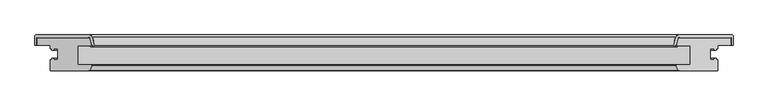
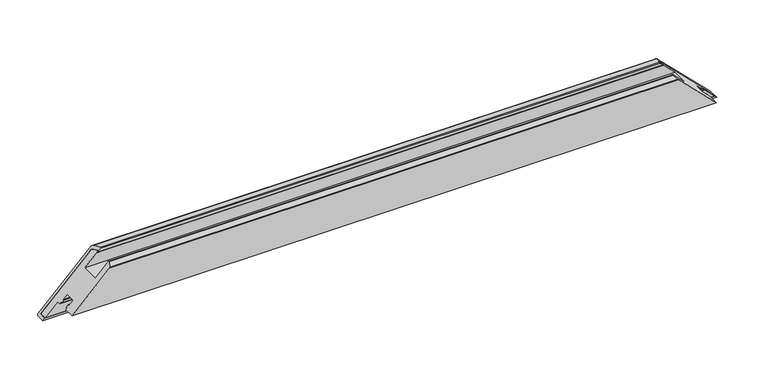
"""IFC4 building model written with IfcOpenShell, lengths in millimetres: proxy geometry, Weiku - Montante - Folha 02.2.01.018 : Weiku - Montante - Folha 02.2.01.018."""

from ifc_helpers import new_model, si_unit, frame, origin, place, context, project, spatial, polyline, ellipse_curve, source, transform, mapped, element, save
from ifc_brep_helpers import plane_surface, cylinder_surface, revolved_surface, advanced_brep


def generic_models_724dfdbe(model_context):
    return source(origin(), model_context, "Body", "AdvancedBrep", [
        advanced_brep(
        [(520.5, 50.0, 0.0), (443.4997332, 50.0, 77.0002668), (-443.4997332, 50.0, 77.0002668), (-520.5, 50.0, 0.0), (440.6019557, 47.7764571, 79.8980443), (-440.6019557, 47.7764571, 79.8980443), (438.0170371, 38.1294095, 82.4829629), (-438.0170371, 38.1294095, 82.4829629), (438.5, 37.5, 82.0), (-438.5, 37.5, 82.0), (439.3560102, 37.5, 81.1439898), (-439.3560102, 37.5, 81.1439898), (439.3560102, 36.5, 81.1439898), (-439.3560102, 36.5, 81.1439898), (434.7425588, 36.5, 85.7574412), (-434.7425588, 36.5, 85.7574412), (433.7766329, 37.758819, 86.7233671), (-433.7766329, 37.758819, 86.7233671), (437.1354501, 50.2940952, 83.3645499), (-437.1354501, 50.2940952, 83.3645499), (441.9650792, 54.0, 78.5349208), (-441.9650792, 54.0, 78.5349208), (521.5, 54.0, -1.0), (-521.5, 54.0, -1.0), (523.5, 52.0, -3.0), (-523.5, 52.0, -3.0), (523.5, 38.5, -3.0), (-523.5, 38.5, -3.0), (520.5, 38.5, 0.0), (-520.5, 38.5, 0.0)],
        [
            (0, 1),
            (1, 2),
            (2, 3),
            (3, 0),
            (1, 4, ellipse_curve(frame((443.4997332, 47.0, 77.0002668), z_axis=(0.7071067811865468, 0.0, 0.7071067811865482), x_axis=(0.7071067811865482, 0.0, -0.7071067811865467)), 4.2426407, 3.0)),
            (4, 5),
            (5, 2, ellipse_curve(frame((-443.4997332, 47.0, 77.0002668), z_axis=(-0.7071067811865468, 0.0, 0.7071067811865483), x_axis=(0.7071067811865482, 0.0, 0.7071067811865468)), 4.2426407, 3.0)),
            (4, 6),
            (6, 7),
            (7, 5),
            (6, 8, ellipse_curve(frame((438.5, 38.0, 82.0), z_axis=(0.7071067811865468, 0.0, 0.7071067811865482), x_axis=(0.7071067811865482, 0.0, -0.7071067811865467)), 0.7071068, 0.5)),
            (8, 9),
            (9, 7, ellipse_curve(frame((-438.5, 38.0, 82.0), z_axis=(-0.7071067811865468, 0.0, 0.7071067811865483), x_axis=(0.7071067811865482, 0.0, 0.7071067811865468)), 0.7071068, 0.5)),
            (8, 10),
            (10, 11),
            (11, 9),
            (10, 12, ellipse_curve(frame((439.3560102, 37.0, 81.1439898), z_axis=(-0.7071067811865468, 0.0, -0.7071067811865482), x_axis=(-0.7071067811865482, 0.0, 0.7071067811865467)), 0.7071068, 0.5)),
            (12, 13),
            (13, 11, ellipse_curve(frame((-439.3560102, 37.0, 81.1439898), z_axis=(0.7071067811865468, 0.0, -0.7071067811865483), x_axis=(-0.7071067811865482, 0.0, -0.7071067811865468)), 0.7071068, 0.5)),
            (12, 14),
            (14, 15),
            (15, 13),
            (14, 16, ellipse_curve(frame((434.7425588, 37.5, 85.7574412), z_axis=(-0.7071067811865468, 0.0, -0.7071067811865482), x_axis=(-0.7071067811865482, 0.0, 0.7071067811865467)), 1.4142136, 1.0)),
            (16, 17),
            (17, 15, ellipse_curve(frame((-434.7425588, 37.5, 85.7574412), z_axis=(0.7071067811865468, 0.0, -0.7071067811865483), x_axis=(-0.7071067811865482, 0.0, -0.7071067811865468)), 1.4142136, 1.0)),
            (16, 18),
            (18, 19),
            (19, 17),
            (18, 20, ellipse_curve(frame((441.9650792, 49.0, 78.5349208), z_axis=(-0.7071067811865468, 0.0, -0.7071067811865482), x_axis=(-0.7071067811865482, 0.0, 0.7071067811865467)), 7.0710678, 5.0)),
            (20, 21),
            (21, 19, ellipse_curve(frame((-441.9650792, 49.0, 78.5349208), z_axis=(0.7071067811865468, 0.0, -0.7071067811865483), x_axis=(-0.7071067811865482, 0.0, -0.7071067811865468)), 7.0710678, 5.0)),
            (20, 22),
            (22, 23),
            (23, 21),
            (22, 24, ellipse_curve(frame((521.5, 52.0, -1.0), z_axis=(-0.7071067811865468, 0.0, -0.7071067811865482), x_axis=(-0.7071067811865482, 0.0, 0.7071067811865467)), 2.8284271, 2.0)),
            (24, 25),
            (25, 23, ellipse_curve(frame((-521.5, 52.0, -1.0), z_axis=(0.7071067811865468, 0.0, -0.7071067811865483), x_axis=(-0.7071067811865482, 0.0, -0.7071067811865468)), 2.8284271, 2.0)),
            (24, 26),
            (26, 27),
            (27, 25),
            (26, 28),
            (28, 29),
            (29, 27),
            (28, 0),
            (3, 29),
        ],
        [
            plane_surface(frame((-540.5, 50.0, 0.0), z_axis=(0.0, -1.0, 0.0), x_axis=(1.0, 0.0, 0.0))),
            revolved_surface(polyline([(446.49973320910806, 50.0, 77.0002668), (-446.49973320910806, 50.0, 77.0002668)]), (-540.5, 47.0, 77.0002668), (1.0, 0.0, 0.0)),
            plane_surface(frame((-540.5, 47.7764571, 79.8980443), z_axis=(0.0, -0.2588190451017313, -0.9659258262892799), x_axis=(1.0, 0.0, 0.0))),
            revolved_surface(polyline([(439.00000001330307, 38.5, 82.0), (-439.0000000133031, 38.5, 82.0)]), (-540.5, 38.0, 82.0), (1.0, 0.0, 0.0)),
            plane_surface(frame((-540.5, 37.5, 82.0), z_axis=(0.0, 1.0, 0.0), x_axis=(1.0, 0.0, 0.0))),
            cylinder_surface(frame((-540.5, 37.0, 81.1439898), z_axis=(-1.0, 0.0, 0.0), x_axis=(0.0, 1.0, 0.0)), 0.5),
            plane_surface(frame((-540.5, 36.5, 81.1439898), z_axis=(0.0, -1.0, 0.0), x_axis=(1.0, 0.0, 0.0))),
            cylinder_surface(frame((-540.5, 37.5, 85.7574412), z_axis=(-1.0, 0.0, 0.0), x_axis=(0.0, 1.0, 0.0)), 1.0),
            plane_surface(frame((-540.5, 37.758819, 86.7233671), z_axis=(0.0, 0.25881904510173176, 0.9659258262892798), x_axis=(1.0, 0.0, 0.0))),
            cylinder_surface(frame((-540.5, 49.0, 78.5349208), z_axis=(-1.0, 0.0, 0.0), x_axis=(0.0, 1.0, 0.0)), 5.0),
            plane_surface(frame((-540.5, 54.0, 78.5349208), z_axis=(0.0, 1.0, 0.0), x_axis=(1.0, 0.0, 0.0))),
            cylinder_surface(frame((-540.5, 52.0, -1.0), z_axis=(-1.0, 0.0, 0.0), x_axis=(0.0, 1.0, 0.0)), 2.0),
            plane_surface(frame((-540.5, 52.0, -3.0), z_axis=(0.0, 0.0, -1.0), x_axis=(1.0, 0.0, 0.0))),
            plane_surface(frame((-540.5, 38.5, -3.0), z_axis=(0.0, -1.0, 0.0), x_axis=(1.0, 0.0, 0.0))),
            plane_surface(frame((-540.5, 38.5, 0.0), z_axis=(0.0, 0.0, 1.0), x_axis=(1.0, 0.0, 0.0))),
            plane_surface(frame((430.5, 0.0, 90.0), z_axis=(0.7071067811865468, 0.0, 0.7071067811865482), x_axis=(0.0, 1.0, 0.0))),
            plane_surface(frame((-548.7842712, 0.0, -28.2842712), z_axis=(-0.7071067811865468, 0.0, 0.7071067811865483), x_axis=(0.0, 1.0, 0.0))),
        ],
        [
            (0, [[1, 2, 3, 4]]),
            (1, [[5, 6, 7, -2]]),
            (2, [[8, 9, 10, -6]]),
            (3, [[11, 12, 13, -9]]),
            (4, [[14, 15, 16, -12]]),
            (5, [[17, 18, 19, -15]]),
            (6, [[20, 21, 22, -18]]),
            (7, [[23, 24, 25, -21]]),
            (8, [[26, 27, 28, -24]]),
            (9, [[29, 30, 31, -27]]),
            (10, [[32, 33, 34, -30]]),
            (11, [[35, 36, 37, -33]]),
            (12, [[38, 39, 40, -36]]),
            (13, [[41, 42, 43, -39]]),
            (14, [[44, -4, 45, -42]]),
            (15, [[-1, -44, -41, -38, -35, -32, -29, -26, -23, -20, -17, -14, -11, -8, -5]]),
            (16, [[-3, -7, -10, -13, -16, -19, -22, -25, -28, -31, -34, -37, -40, -43, -45]]),
        ],
    ),
        advanced_brep(
        [(520.5, 50.0, 0.0), (-520.5, 50.0, 0.0), (-443.4997332, 50.0, 77.0002668), (443.4997332, 50.0, 77.0002668), (520.5, 38.5, 0.0), (-520.5, 38.5, 0.0), (-442.4872264, 0.0, 78.0127736), (-500.5, 0.0, 20.0), (500.5, 0.0, 20.0), (442.4872264, 0.0, 78.0127736), (-500.5, 38.5, 20.0), (-500.5, 33.1, 20.0), (-498.3, 33.1, 22.2), (-498.3, 31.1, 22.2), (-495.5, 31.1, 25.0), (-495.5, 33.1, 25.0), (-489.0, 33.1, 31.5), (-489.0, 16.9, 31.5), (-495.5, 16.9, 25.0), (-495.5, 18.9, 25.0), (-498.3, 18.9, 22.2), (-498.3, 16.9, 22.2), (-500.5, 16.9, 20.0), (-441.5932657, 0.5518546, 78.9067343), (-438.0512796, 7.617411, 82.4487204), (-439.2134285, 9.5, 81.2865715), (-459.0, 9.5, 61.5), (-459.0, 37.5, 61.5), (-438.5, 37.5, 82.0), (-438.0170371, 38.1294095, 82.4829629), (-440.6019557, 47.7764571, 79.8980443), (440.6019557, 47.7764571, 79.8980443), (438.0170371, 38.1294095, 82.4829629), (438.5, 37.5, 82.0), (459.0, 37.5, 61.5), (459.0, 9.5, 61.5), (439.2134285, 9.5, 81.2865715), (438.0512796, 7.617411, 82.4487204), (441.5932657, 0.5518546, 78.9067343), (500.5, 16.9, 20.0), (498.3, 16.9, 22.2), (498.3, 18.9, 22.2), (495.5, 18.9, 25.0), (495.5, 16.9, 25.0), (489.0, 16.9, 31.5), (489.0, 33.1, 31.5), (495.5, 33.1, 25.0), (495.5, 31.1, 25.0), (498.3, 31.1, 22.2), (498.3, 33.1, 22.2), (500.5, 33.1, 20.0), (500.5, 38.5, 20.0)],
        [
            (0, 1),
            (1, 2),
            (2, 3),
            (3, 0),
            (0, 4),
            (4, 5),
            (5, 1),
            (6, 7),
            (7, 8),
            (8, 9),
            (9, 6),
            (5, 10),
            (10, 11),
            (11, 12),
            (12, 13),
            (13, 14),
            (14, 15),
            (15, 16),
            (16, 17),
            (17, 18),
            (18, 19),
            (19, 20),
            (20, 21),
            (21, 22),
            (22, 7),
            (6, 23, ellipse_curve(frame((-442.4872264, 1.0, 78.0127736), z_axis=(-0.7071067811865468, 0.0, 0.7071067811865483), x_axis=(-0.7071067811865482, 0.0, -0.7071067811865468)), 1.4142136, 1.0)),
            (23, 24),
            (24, 25, ellipse_curve(frame((-439.2134285, 8.2, 81.2865715), z_axis=(-0.7071067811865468, 0.0, 0.7071067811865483), x_axis=(-0.7071067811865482, 0.0, -0.7071067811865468)), 1.8384776, 1.3)),
            (25, 26),
            (26, 27),
            (27, 28),
            (28, 29, ellipse_curve(frame((-438.5, 38.0, 82.0), z_axis=(-0.7071067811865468, 0.0, 0.7071067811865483), x_axis=(-0.7071067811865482, 0.0, -0.7071067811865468)), 0.7071068, 0.5)),
            (29, 30),
            (30, 2, ellipse_curve(frame((-443.4997332, 47.0, 77.0002668), z_axis=(-0.7071067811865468, 0.0, 0.7071067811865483), x_axis=(-0.7071067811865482, 0.0, -0.7071067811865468)), 4.2426407, 3.0)),
            (3, 31, ellipse_curve(frame((443.4997332, 47.0, 77.0002668), z_axis=(0.7071067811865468, 0.0, 0.7071067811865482), x_axis=(-0.7071067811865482, 0.0, 0.7071067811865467)), 4.2426407, 3.0)),
            (31, 32),
            (32, 33, ellipse_curve(frame((438.5, 38.0, 82.0), z_axis=(0.7071067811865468, 0.0, 0.7071067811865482), x_axis=(-0.7071067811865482, 0.0, 0.7071067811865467)), 0.7071068, 0.5)),
            (33, 34),
            (34, 35),
            (35, 36),
            (36, 37, ellipse_curve(frame((439.2134285, 8.2, 81.2865715), z_axis=(0.7071067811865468, 0.0, 0.7071067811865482), x_axis=(-0.7071067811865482, 0.0, 0.7071067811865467)), 1.8384776, 1.3)),
            (37, 38),
            (38, 9, ellipse_curve(frame((442.4872264, 1.0, 78.0127736), z_axis=(0.7071067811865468, 0.0, 0.7071067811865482), x_axis=(-0.7071067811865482, 0.0, 0.7071067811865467)), 1.4142136, 1.0)),
            (8, 39),
            (39, 40),
            (40, 41),
            (41, 42),
            (42, 43),
            (43, 44),
            (44, 45),
            (45, 46),
            (46, 47),
            (47, 48),
            (48, 49),
            (49, 50),
            (50, 51),
            (51, 4),
            (38, 23),
            (37, 24),
            (36, 25),
            (35, 26),
            (34, 27),
            (33, 28),
            (32, 29),
            (31, 30),
            (51, 10),
            (50, 11),
            (49, 12),
            (48, 13),
            (47, 14),
            (46, 15),
            (45, 16),
            (44, 17),
            (43, 18),
            (42, 19),
            (41, 20),
            (40, 21),
            (39, 22),
        ],
        [
            plane_surface(frame((-520.5, 50.0, 77.0002668), z_axis=(0.0, 1.0, 0.0), x_axis=(1.0, 0.0, 0.0))),
            plane_surface(frame((-520.5, 50.0, 0.0), z_axis=(0.0, 0.0, -1.0), x_axis=(1.0, 0.0, 0.0))),
            plane_surface(frame((-520.5, 0.0, 20.0), z_axis=(0.0, -1.0, 0.0), x_axis=(1.0, 0.0, 0.0))),
            plane_surface(frame((-548.7842712, 0.0, -28.2842712), z_axis=(-0.7071067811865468, 0.0, 0.7071067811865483), x_axis=(0.0, 1.0, 0.0))),
            plane_surface(frame((430.5, 0.0, 90.0), z_axis=(0.7071067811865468, 0.0, 0.7071067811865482), x_axis=(0.0, 1.0, 0.0))),
            cylinder_surface(frame((-520.5, 1.0, 78.0127736), z_axis=(-1.0, 0.0, 0.0), x_axis=(0.0, 1.0, 0.0)), 1.0),
            plane_surface(frame((-520.5, 0.5518546, 78.9067343), z_axis=(0.0, -0.4481453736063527, 0.8939606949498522), x_axis=(1.0, 0.0, 0.0))),
            cylinder_surface(frame((-520.5, 8.2, 81.2865715), z_axis=(-1.0, 0.0, 0.0), x_axis=(0.0, 1.0, 0.0)), 1.3),
            plane_surface(frame((-520.5, 9.5, 81.2865715), z_axis=(0.0, 1.0, 0.0), x_axis=(1.0, 0.0, 0.0))),
            plane_surface(frame((-520.5, 9.5, 61.5), z_axis=(0.0, 0.0, 1.0), x_axis=(1.0, 0.0, 0.0))),
            plane_surface(frame((-520.5, 37.5, 61.5), z_axis=(0.0, -1.0, 0.0), x_axis=(1.0, 0.0, 0.0))),
            cylinder_surface(frame((-520.5, 38.0, 82.0), z_axis=(-1.0, 0.0, 0.0), x_axis=(0.0, 1.0, 0.0)), 0.5),
            plane_surface(frame((-520.5, 38.1294095, 82.4829629), z_axis=(0.0, 0.2588190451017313, 0.9659258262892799), x_axis=(1.0, 0.0, 0.0))),
            cylinder_surface(frame((-520.5, 47.0, 77.0002668), z_axis=(-1.0, 0.0, 0.0), x_axis=(0.0, 1.0, 0.0)), 3.0),
            plane_surface(frame((-520.5, 38.5, 0.0), z_axis=(0.0, -1.0, 0.0), x_axis=(1.0, 0.0, 0.0))),
            plane_surface(frame((-520.5, 38.5, 20.0), z_axis=(0.0, 0.0, -1.0), x_axis=(1.0, 0.0, 0.0))),
            plane_surface(frame((-520.5, 33.1, 20.0), z_axis=(0.0, -1.0, 0.0), x_axis=(1.0, 0.0, 0.0))),
            plane_surface(frame((-520.5, 33.1, 22.2), z_axis=(0.0, 0.0, -1.0), x_axis=(1.0, 0.0, 0.0))),
            plane_surface(frame((-520.5, 31.1, 22.2), z_axis=(0.0, -1.0, 0.0), x_axis=(1.0, 0.0, 0.0))),
            plane_surface(frame((-520.5, 31.1, 25.0), z_axis=(0.0, 0.0, 1.0), x_axis=(1.0, 0.0, 0.0))),
            plane_surface(frame((-520.5, 33.1, 25.0), z_axis=(0.0, -1.0, 0.0), x_axis=(1.0, 0.0, 0.0))),
            plane_surface(frame((-520.5, 33.1, 31.5), z_axis=(0.0, 0.0, -1.0), x_axis=(1.0, 0.0, 0.0))),
            plane_surface(frame((-520.5, 16.9, 31.5), z_axis=(0.0, 1.0, 0.0), x_axis=(1.0, 0.0, 0.0))),
            plane_surface(frame((-520.5, 16.9, 25.0), z_axis=(0.0, 0.0, 1.0), x_axis=(1.0, 0.0, 0.0))),
            plane_surface(frame((-520.5, 18.9, 25.0), z_axis=(0.0, 1.0, 0.0), x_axis=(1.0, 0.0, 0.0))),
            plane_surface(frame((-520.5, 18.9, 22.2), z_axis=(0.0, 0.0, -1.0), x_axis=(1.0, 0.0, 0.0))),
            plane_surface(frame((-520.5, 16.9, 22.2), z_axis=(0.0, 1.0, 0.0), x_axis=(1.0, 0.0, 0.0))),
            plane_surface(frame((-520.5, 16.9, 20.0), z_axis=(0.0, 0.0, -1.0), x_axis=(1.0, 0.0, 0.0))),
        ],
        [
            (0, [[1, 2, 3, 4]]),
            (1, [[-1, 5, 6, 7]]),
            (2, [[8, 9, 10, 11]]),
            (3, [[-2, -7, 12, 13, 14, 15, 16, 17, 18, 19, 20, 21, 22, 23, 24, 25, -8, 26, 27, 28, 29, 30, 31, 32, 33, 34]]),
            (4, [[-4, 35, 36, 37, 38, 39, 40, 41, 42, 43, -10, 44, 45, 46, 47, 48, 49, 50, 51, 52, 53, 54, 55, 56, 57, -5]]),
            (5, [[-26, -11, -43, 58]]),
            (6, [[-27, -58, -42, 59]]),
            (7, [[-28, -59, -41, 60]]),
            (8, [[-29, -60, -40, 61]]),
            (9, [[-30, -61, -39, 62]]),
            (10, [[-31, -62, -38, 63]]),
            (11, [[-32, -63, -37, 64]]),
            (12, [[-33, -64, -36, 65]]),
            (13, [[-34, -65, -35, -3]]),
            (14, [[-6, -57, 66, -12]]),
            (15, [[-13, -66, -56, 67]]),
            (16, [[-14, -67, -55, 68]]),
            (17, [[-15, -68, -54, 69]]),
            (18, [[-16, -69, -53, 70]]),
            (19, [[-17, -70, -52, 71]]),
            (20, [[-18, -71, -51, 72]]),
            (21, [[-19, -72, -50, 73]]),
            (22, [[-20, -73, -49, 74]]),
            (23, [[-21, -74, -48, 75]]),
            (24, [[-22, -75, -47, 76]]),
            (25, [[-23, -76, -46, 77]]),
            (26, [[-24, -77, -45, 78]]),
            (27, [[-25, -78, -44, -9]]),
        ],
    ),
    ])


if __name__ == "__main__":
    model = new_model("IFC4")
    model_context = context("Model", 3, world=origin())
    ifc_project = project(units=[si_unit("LENGTHUNIT", "METRE", prefix="MILLI")], contexts=[model_context])
    site = spatial("IfcSite", under=ifc_project)
    building = spatial("IfcBuilding", under=site)
    placement = place(None, origin())
    generic_models_shape = generic_models_724dfdbe(model_context)
    element("IfcBuildingElementProxy", 1, Name="Weiku - Montante - Folha 02.2.01.018 : Weiku - Montante - Folha 02.2.01.018", ObjectType="Weiku - Montante - Folha 02.2.01.018 : Weiku - Montante - Folha 02.2.01.018", at=placement, inside=building, context=model_context, shape_type="MappedRepresentation", body=[
        mapped(generic_models_shape, transform((0.0, 0.0, 0.0), x_axis=(1.0, 0.0, 0.0), y_axis=(0.0, 1.0, 0.0), z_axis=(0.0, 0.0, 1.0))),
    ])
    save(model, "model.ifc")
